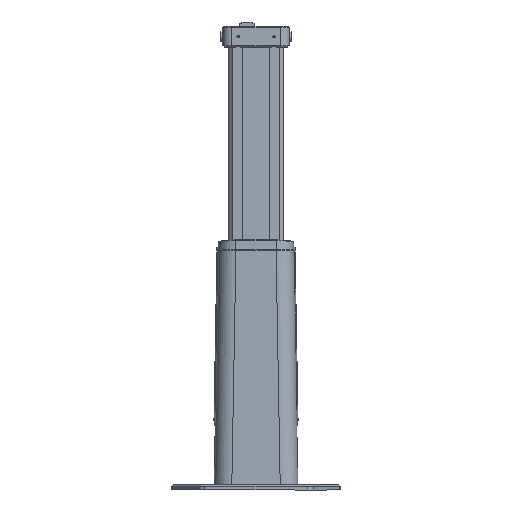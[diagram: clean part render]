
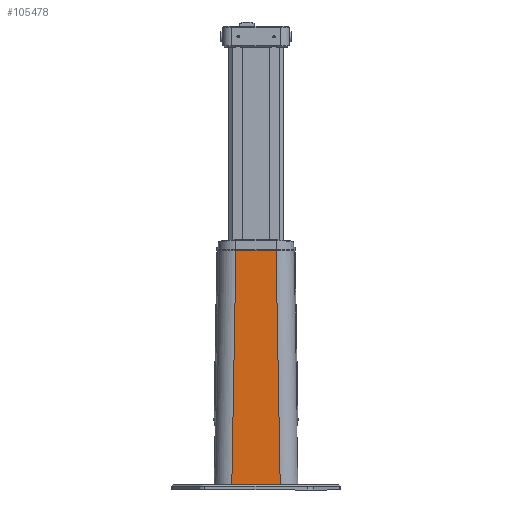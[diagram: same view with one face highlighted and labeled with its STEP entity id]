
A CAD part, front view. The second image highlights one B-rep face of the part: STEP entity #105478.
In plain terms, the highlighted planar face has unit normal (0, -1, 0).
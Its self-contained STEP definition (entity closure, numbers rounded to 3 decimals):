
#347 = CARTESIAN_POINT ( 'NONE',  ( -54.779, -92.1, -124.679 ) ) ;
#2317 = ORIENTED_EDGE ( 'NONE', *, *, #171836, .F. ) ;
#5518 = LINE ( 'NONE', #43168, #76377 ) ;
#6030 = FACE_OUTER_BOUND ( 'NONE', #170849, .T. ) ;
#7402 = VECTOR ( 'NONE', #130781, 1000. ) ;
#11338 = CARTESIAN_POINT ( 'NONE',  ( 45.497, -92.1, 406.921 ) ) ;
#11363 = ORIENTED_EDGE ( 'NONE', *, *, #55521, .T. ) ;
#17619 = CARTESIAN_POINT ( 'NONE',  ( 54.779, -92.1, -124.679 ) ) ;
#19012 = VERTEX_POINT ( 'NONE', #130851 ) ;
#24143 = CARTESIAN_POINT ( 'NONE',  ( -55.024, -92.1, -138.69 ) ) ;
#24917 = DIRECTION ( 'NONE',  ( -1., 0., 0. ) ) ;
#26603 = VERTEX_POINT ( 'NONE', #347 ) ;
#39111 = ORIENTED_EDGE ( 'NONE', *, *, #55368, .T. ) ;
#43168 = CARTESIAN_POINT ( 'NONE',  ( 0., -92.1, -124.679 ) ) ;
#43780 = DIRECTION ( 'NONE',  ( -0.017, 0., 1. ) ) ;
#45706 = ORIENTED_EDGE ( 'NONE', *, *, #54739, .T. ) ;
#46238 = LINE ( 'NONE', #24143, #7402 ) ;
#49589 = AXIS2_PLACEMENT_3D ( 'NONE', #171206, #141536, #169470 ) ;
#50124 = VERTEX_POINT ( 'NONE', #169359 ) ;
#54739 = EDGE_CURVE ( 'NONE', #50124, #77666, #120822, .T. ) ;
#55368 = EDGE_CURVE ( 'NONE', #77666, #19012, #134175, .T. ) ;
#55521 = EDGE_CURVE ( 'NONE', #26603, #50124, #5518, .T. ) ;
#76377 = VECTOR ( 'NONE', #125386, 1000. ) ;
#77666 = VERTEX_POINT ( 'NONE', #11338 ) ;
#87220 = VECTOR ( 'NONE', #43780, 1000. ) ;
#105478 = ADVANCED_FACE ( 'NONE', ( #6030 ), #140676, .T. ) ;
#107028 = CARTESIAN_POINT ( 'NONE',  ( 45.5, -92.1, 406.921 ) ) ;
#120822 = LINE ( 'NONE', #17619, #87220 ) ;
#125386 = DIRECTION ( 'NONE',  ( 1., 0., 0. ) ) ;
#130781 = DIRECTION ( 'NONE',  ( 0.017, 0., 1. ) ) ;
#130851 = CARTESIAN_POINT ( 'NONE',  ( -45.497, -92.1, 406.921 ) ) ;
#134175 = LINE ( 'NONE', #107028, #151777 ) ;
#140676 = PLANE ( 'NONE',  #49589 ) ;
#141536 = DIRECTION ( 'NONE',  ( 0., -1., 0. ) ) ;
#151777 = VECTOR ( 'NONE', #24917, 1000. ) ;
#169359 = CARTESIAN_POINT ( 'NONE',  ( 54.779, -92.1, -124.679 ) ) ;
#169470 = DIRECTION ( 'NONE',  ( 1., 0., 0. ) ) ;
#170849 = EDGE_LOOP ( 'NONE', ( #39111, #2317, #11363, #45706 ) ) ;
#171206 = CARTESIAN_POINT ( 'NONE',  ( 0., -92.1, -124.679 ) ) ;
#171836 = EDGE_CURVE ( 'NONE', #26603, #19012, #46238, .T. ) ;
